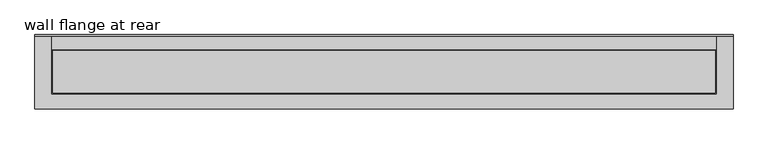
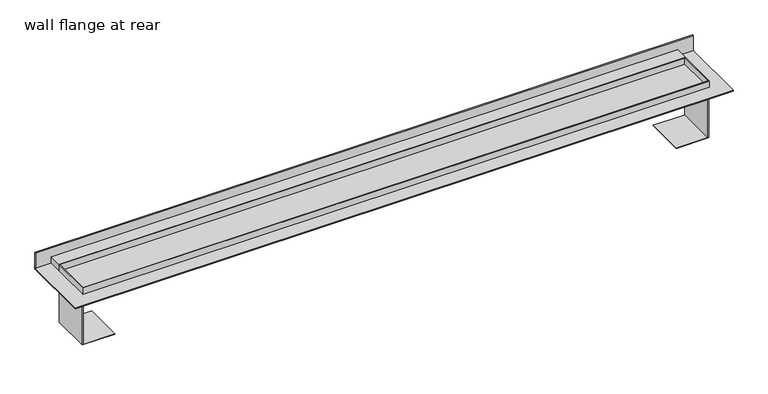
"""IFC4 building model written with IfcOpenShell, lengths in millimetres: sanitary terminal geometry, PF_ST_UN_ShowerDrain M_ACO : wall flange at rear."""

from ifc_helpers import new_model, si_unit, frame, origin, origin_with_axes, place, context, project, spatial, polyline, outline, extrude, faceted_brep, source, transform, mapped, element, save


def wall_flange_at_rear_e9290f7a(model_context):
    return source(origin(), model_context, "Body", "SolidModel", [
        extrude(outline(polyline([(630.0, 67.0), (630.0, -67.0), (-630.0, -67.0), (-630.0, 67.0), (630.0, 67.0)])), origin_with_axes(), (0.0, 0.0, 1.0), 2.0),
        extrude(outline(polyline([(-16.5, -598.0), (-16.5, -600.0), (-101.5, -600.0), (-101.5, -538.0), (-100.5, -538.0), (-100.5, -598.0), (-16.5, -598.0)])), frame((0.0, -38.0, 0.0), z_axis=(0.0, 1.0, 0.0), x_axis=(0.0, 0.0, 1.0)), (0.0, 0.0, 1.0), 76.0),
        extrude(outline(polyline([(-16.5, 598.0), (-100.5, 598.0), (-100.5, 538.0), (-101.5, 538.0), (-101.5, 600.0), (-16.5, 600.0), (-16.5, 598.0)])), frame((0.0, -38.0, 0.0), z_axis=(0.0, 1.0, 0.0), x_axis=(0.0, 0.0, 1.0)), (0.0, 0.0, 1.0), 76.0),
        faceted_brep([(-600.0, 65.0, 15.0), (-600.0, 40.0, 15.0), (600.0, 40.0, 15.0), (600.0, 65.0, 15.0), (600.0, 65.0, 2.0), (600.0, 40.0, 2.0), (-600.0, 40.0, 2.0), (-600.0, 65.0, 2.0), (630.0, 67.0, 33.0), (-630.0, 67.0, 33.0), (-630.0, 65.0, 33.0), (630.0, 65.0, 33.0), (630.0, 67.0, 0.0), (630.0, 65.0, 0.0), (-630.0, 65.0, 0.0), (-630.0, 67.0, 0.0)], [[[0, 1, 2, 3]], [[4, 5, 6, 7]], [[1, 0, 7, 6]], [[2, 1, 6, 5]], [[3, 2, 5, 4]], [[8, 9, 10, 11]], [[12, 13, 14, 15]], [[9, 8, 12, 15]], [[10, 9, 15, 14]], [[11, 10, 14, 13], [0, 3, 4, 7]], [[8, 11, 13, 12]]]),
        faceted_brep([(600.0, 40.0, 15.0), (-600.0, 40.0, 15.0), (-600.0, -40.0, 15.0), (600.0, -40.0, 15.0), (-598.0, -38.0, 15.0), (-598.0, 38.0, 15.0), (598.0, 38.0, 15.0), (598.0, -38.0, 15.0), (600.0, 40.0, -16.5), (600.0, -40.0, -16.5), (-600.0, -40.0, -16.5), (-600.0, 40.0, -16.5), (-598.0, 38.0, -6.0), (-598.0, -38.0, -6.0), (598.0, -38.0, -6.0), (598.0, 38.0, -6.0)], [[[0, 1, 2, 3], [4, 5, 6, 7]], [[8, 9, 10, 11]], [[1, 0, 8, 11]], [[2, 1, 11, 10]], [[3, 2, 10, 9]], [[0, 3, 9, 8]], [[12, 13, 14, 15]], [[13, 12, 5, 4]], [[14, 13, 4, 7]], [[15, 14, 7, 6]], [[12, 15, 6, 5]]]),
    ])


if __name__ == "__main__":
    model = new_model("IFC4")
    model_context = context("Model", 3, world=origin())
    ifc_project = project(units=[si_unit("LENGTHUNIT", "METRE", prefix="MILLI")], contexts=[model_context])
    site = spatial("IfcSite", under=ifc_project)
    building = spatial("IfcBuilding", under=site)
    placement = place(None, origin())
    wall_flange_at_rear_shape = wall_flange_at_rear_e9290f7a(model_context)
    element("IfcSanitaryTerminal", 1, ObjectType="PF_ST_UN_ShowerDrain M_ACO : wall flange at rear", at=placement, inside=building, context=model_context, shape_type="MappedRepresentation", body=[
        mapped(wall_flange_at_rear_shape, transform((0.0, 0.0, 0.0), x_axis=(1.0, 0.0, 0.0), y_axis=(0.0, 1.0, 0.0), z_axis=(0.0, 0.0, 1.0))),
    ])
    save(model, "model.ifc")
